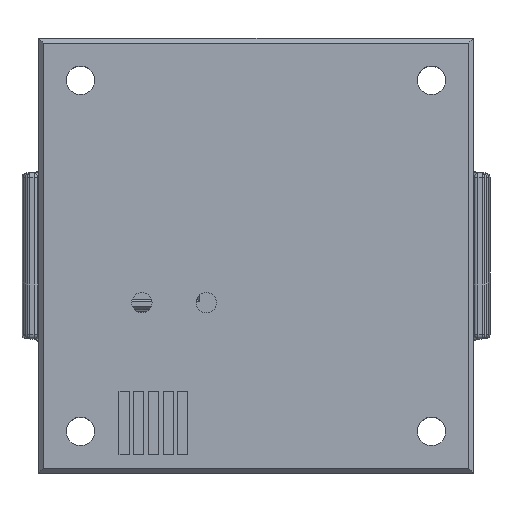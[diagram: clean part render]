
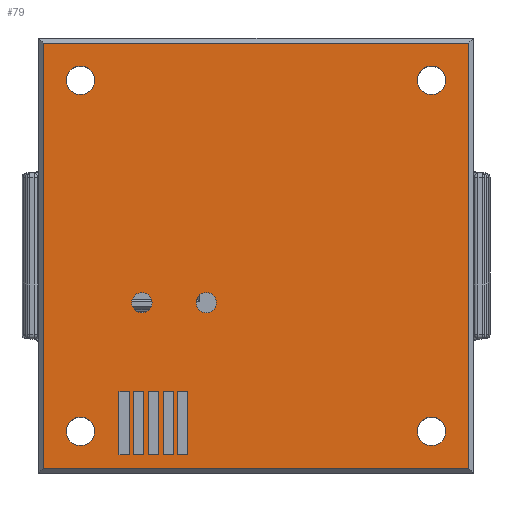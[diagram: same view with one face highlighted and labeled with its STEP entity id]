
A CAD part, top view. The second image highlights one B-rep face of the part: STEP entity #79.
In plain terms, the highlighted planar face has unit normal (0, 0, 1).
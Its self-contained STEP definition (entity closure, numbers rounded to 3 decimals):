
#43 = EDGE_CURVE('',#44,#46,#48,.T.);
#44 = VERTEX_POINT('',#45);
#45 = CARTESIAN_POINT('',(-21.5,-0.32,5.27));
#46 = VERTEX_POINT('',#47);
#47 = CARTESIAN_POINT('',(24.68,-0.32,5.27));
#48 = LINE('',#49,#50);
#49 = CARTESIAN_POINT('',(13.385,-0.32,5.27));
#50 = VECTOR('',#51,1.);
#51 = DIRECTION('',(1.,0.,0.));
#79 = ADVANCED_FACE('',(#80,#105,#116,#150,#184,#195,#229,#263,#297,#308
    ,#319,#330),#341,.T.);
#80 = FACE_BOUND('',#81,.T.);
#81 = EDGE_LOOP('',(#82,#83,#91,#99));
#82 = ORIENTED_EDGE('',*,*,#43,.F.);
#83 = ORIENTED_EDGE('',*,*,#84,.F.);
#84 = EDGE_CURVE('',#85,#44,#87,.T.);
#85 = VERTEX_POINT('',#86);
#86 = CARTESIAN_POINT('',(-21.5,-46.5,5.27));
#87 = LINE('',#88,#89);
#88 = CARTESIAN_POINT('',(-21.5,-11.615,5.27));
#89 = VECTOR('',#90,1.);
#90 = DIRECTION('',(0.,1.,0.));
#91 = ORIENTED_EDGE('',*,*,#92,.F.);
#92 = EDGE_CURVE('',#93,#85,#95,.T.);
#93 = VERTEX_POINT('',#94);
#94 = CARTESIAN_POINT('',(24.68,-46.5,5.27));
#95 = LINE('',#96,#97);
#96 = CARTESIAN_POINT('',(-10.205,-46.5,5.27));
#97 = VECTOR('',#98,1.);
#98 = DIRECTION('',(-1.,0.,0.));
#99 = ORIENTED_EDGE('',*,*,#100,.F.);
#100 = EDGE_CURVE('',#46,#93,#101,.T.);
#101 = LINE('',#102,#103);
#102 = CARTESIAN_POINT('',(24.68,-35.205,5.27));
#103 = VECTOR('',#104,1.);
#104 = DIRECTION('',(0.,-1.,0.));
#105 = FACE_BOUND('',#106,.T.);
#106 = EDGE_LOOP('',(#107));
#107 = ORIENTED_EDGE('',*,*,#108,.T.);
#108 = EDGE_CURVE('',#109,#109,#111,.T.);
#109 = VERTEX_POINT('',#110);
#110 = CARTESIAN_POINT('',(-9.693,-28.49,5.27));
#111 = CIRCLE('',#112,1.1);
#112 = AXIS2_PLACEMENT_3D('',#113,#114,#115);
#113 = CARTESIAN_POINT('',(-10.793,-28.49,5.27));
#114 = DIRECTION('',(0.,0.,-1.));
#115 = DIRECTION('',(-1.,0.,0.));
#116 = FACE_BOUND('',#117,.T.);
#117 = EDGE_LOOP('',(#118,#128,#136,#144));
#118 = ORIENTED_EDGE('',*,*,#119,.T.);
#119 = EDGE_CURVE('',#120,#122,#124,.T.);
#120 = VERTEX_POINT('',#121);
#121 = CARTESIAN_POINT('',(-10.076,-38.161,5.27));
#122 = VERTEX_POINT('',#123);
#123 = CARTESIAN_POINT('',(-8.988,-38.161,5.27));
#124 = LINE('',#125,#126);
#125 = CARTESIAN_POINT('',(-3.699,-38.161,5.27));
#126 = VECTOR('',#127,1.);
#127 = DIRECTION('',(1.,0.,0.));
#128 = ORIENTED_EDGE('',*,*,#129,.T.);
#129 = EDGE_CURVE('',#122,#130,#132,.T.);
#130 = VERTEX_POINT('',#131);
#131 = CARTESIAN_POINT('',(-8.988,-45.,5.27));
#132 = LINE('',#133,#134);
#133 = CARTESIAN_POINT('',(-8.988,-34.205,5.27));
#134 = VECTOR('',#135,1.);
#135 = DIRECTION('',(0.,-1.,0.));
#136 = ORIENTED_EDGE('',*,*,#137,.T.);
#137 = EDGE_CURVE('',#130,#138,#140,.T.);
#138 = VERTEX_POINT('',#139);
#139 = CARTESIAN_POINT('',(-10.076,-45.,5.27));
#140 = LINE('',#141,#142);
#141 = CARTESIAN_POINT('',(-4.243,-45.,5.27));
#142 = VECTOR('',#143,1.);
#143 = DIRECTION('',(-1.,0.,0.));
#144 = ORIENTED_EDGE('',*,*,#145,.T.);
#145 = EDGE_CURVE('',#138,#120,#146,.T.);
#146 = LINE('',#147,#148);
#147 = CARTESIAN_POINT('',(-10.076,-30.785,5.27));
#148 = VECTOR('',#149,1.);
#149 = DIRECTION('',(0.,1.,0.));
#150 = FACE_BOUND('',#151,.T.);
#151 = EDGE_LOOP('',(#152,#162,#170,#178));
#152 = ORIENTED_EDGE('',*,*,#153,.T.);
#153 = EDGE_CURVE('',#154,#156,#158,.T.);
#154 = VERTEX_POINT('',#155);
#155 = CARTESIAN_POINT('',(-6.901,-38.161,5.27));
#156 = VERTEX_POINT('',#157);
#157 = CARTESIAN_POINT('',(-5.813,-38.161,5.27));
#158 = LINE('',#159,#160);
#159 = CARTESIAN_POINT('',(-2.112,-38.161,5.27));
#160 = VECTOR('',#161,1.);
#161 = DIRECTION('',(1.,0.,0.));
#162 = ORIENTED_EDGE('',*,*,#163,.T.);
#163 = EDGE_CURVE('',#156,#164,#166,.T.);
#164 = VERTEX_POINT('',#165);
#165 = CARTESIAN_POINT('',(-5.813,-45.,5.27));
#166 = LINE('',#167,#168);
#167 = CARTESIAN_POINT('',(-5.813,-34.205,5.27));
#168 = VECTOR('',#169,1.);
#169 = DIRECTION('',(0.,-1.,0.));
#170 = ORIENTED_EDGE('',*,*,#171,.T.);
#171 = EDGE_CURVE('',#164,#172,#174,.T.);
#172 = VERTEX_POINT('',#173);
#173 = CARTESIAN_POINT('',(-6.901,-45.,5.27));
#174 = LINE('',#175,#176);
#175 = CARTESIAN_POINT('',(-2.655,-45.,5.27));
#176 = VECTOR('',#177,1.);
#177 = DIRECTION('',(-1.,0.,0.));
#178 = ORIENTED_EDGE('',*,*,#179,.T.);
#179 = EDGE_CURVE('',#172,#154,#180,.T.);
#180 = LINE('',#181,#182);
#181 = CARTESIAN_POINT('',(-6.901,-30.785,5.27));
#182 = VECTOR('',#183,1.);
#183 = DIRECTION('',(0.,1.,0.));
#184 = FACE_BOUND('',#185,.T.);
#185 = EDGE_LOOP('',(#186));
#186 = ORIENTED_EDGE('',*,*,#187,.T.);
#187 = EDGE_CURVE('',#188,#188,#190,.T.);
#188 = VERTEX_POINT('',#189);
#189 = CARTESIAN_POINT('',(-2.708,-28.49,5.27));
#190 = CIRCLE('',#191,1.1);
#191 = AXIS2_PLACEMENT_3D('',#192,#193,#194);
#192 = CARTESIAN_POINT('',(-3.808,-28.49,5.27));
#193 = DIRECTION('',(0.,0.,-1.));
#194 = DIRECTION('',(-1.,0.,0.));
#195 = FACE_BOUND('',#196,.T.);
#196 = EDGE_LOOP('',(#197,#207,#215,#223));
#197 = ORIENTED_EDGE('',*,*,#198,.T.);
#198 = EDGE_CURVE('',#199,#201,#203,.T.);
#199 = VERTEX_POINT('',#200);
#200 = CARTESIAN_POINT('',(-8.488,-38.161,5.27));
#201 = VERTEX_POINT('',#202);
#202 = CARTESIAN_POINT('',(-7.401,-38.161,5.27));
#203 = LINE('',#204,#205);
#204 = CARTESIAN_POINT('',(-2.905,-38.161,5.27));
#205 = VECTOR('',#206,1.);
#206 = DIRECTION('',(1.,0.,0.));
#207 = ORIENTED_EDGE('',*,*,#208,.T.);
#208 = EDGE_CURVE('',#201,#209,#211,.T.);
#209 = VERTEX_POINT('',#210);
#210 = CARTESIAN_POINT('',(-7.401,-45.,5.27));
#211 = LINE('',#212,#213);
#212 = CARTESIAN_POINT('',(-7.401,-34.205,5.27));
#213 = VECTOR('',#214,1.);
#214 = DIRECTION('',(0.,-1.,0.));
#215 = ORIENTED_EDGE('',*,*,#216,.T.);
#216 = EDGE_CURVE('',#209,#217,#219,.T.);
#217 = VERTEX_POINT('',#218);
#218 = CARTESIAN_POINT('',(-8.488,-45.,5.27));
#219 = LINE('',#220,#221);
#220 = CARTESIAN_POINT('',(-3.449,-45.,5.27));
#221 = VECTOR('',#222,1.);
#222 = DIRECTION('',(-1.,0.,0.));
#223 = ORIENTED_EDGE('',*,*,#224,.T.);
#224 = EDGE_CURVE('',#217,#199,#225,.T.);
#225 = LINE('',#226,#227);
#226 = CARTESIAN_POINT('',(-8.488,-30.785,5.27));
#227 = VECTOR('',#228,1.);
#228 = DIRECTION('',(0.,1.,0.));
#229 = FACE_BOUND('',#230,.T.);
#230 = EDGE_LOOP('',(#231,#241,#249,#257));
#231 = ORIENTED_EDGE('',*,*,#232,.T.);
#232 = EDGE_CURVE('',#233,#235,#237,.T.);
#233 = VERTEX_POINT('',#234);
#234 = CARTESIAN_POINT('',(-11.663,-38.161,5.27));
#235 = VERTEX_POINT('',#236);
#236 = CARTESIAN_POINT('',(-10.576,-38.161,5.27));
#237 = LINE('',#238,#239);
#238 = CARTESIAN_POINT('',(-4.493,-38.161,5.27));
#239 = VECTOR('',#240,1.);
#240 = DIRECTION('',(1.,0.,0.));
#241 = ORIENTED_EDGE('',*,*,#242,.T.);
#242 = EDGE_CURVE('',#235,#243,#245,.T.);
#243 = VERTEX_POINT('',#244);
#244 = CARTESIAN_POINT('',(-10.576,-45.,5.27));
#245 = LINE('',#246,#247);
#246 = CARTESIAN_POINT('',(-10.576,-34.205,5.27));
#247 = VECTOR('',#248,1.);
#248 = DIRECTION('',(0.,-1.,0.));
#249 = ORIENTED_EDGE('',*,*,#250,.T.);
#250 = EDGE_CURVE('',#243,#251,#253,.T.);
#251 = VERTEX_POINT('',#252);
#252 = CARTESIAN_POINT('',(-11.663,-45.,5.27));
#253 = LINE('',#254,#255);
#254 = CARTESIAN_POINT('',(-5.037,-45.,5.27));
#255 = VECTOR('',#256,1.);
#256 = DIRECTION('',(-1.,0.,0.));
#257 = ORIENTED_EDGE('',*,*,#258,.T.);
#258 = EDGE_CURVE('',#251,#233,#259,.T.);
#259 = LINE('',#260,#261);
#260 = CARTESIAN_POINT('',(-11.663,-30.785,5.27));
#261 = VECTOR('',#262,1.);
#262 = DIRECTION('',(0.,1.,0.));
#263 = FACE_BOUND('',#264,.T.);
#264 = EDGE_LOOP('',(#265,#275,#283,#291));
#265 = ORIENTED_EDGE('',*,*,#266,.T.);
#266 = EDGE_CURVE('',#267,#269,#271,.T.);
#267 = VERTEX_POINT('',#268);
#268 = CARTESIAN_POINT('',(-13.28,-45.,5.27));
#269 = VERTEX_POINT('',#270);
#270 = CARTESIAN_POINT('',(-13.28,-38.161,5.27));
#271 = LINE('',#272,#273);
#272 = CARTESIAN_POINT('',(-13.28,-30.785,5.27));
#273 = VECTOR('',#274,1.);
#274 = DIRECTION('',(0.,1.,0.));
#275 = ORIENTED_EDGE('',*,*,#276,.T.);
#276 = EDGE_CURVE('',#269,#277,#279,.T.);
#277 = VERTEX_POINT('',#278);
#278 = CARTESIAN_POINT('',(-12.163,-38.161,5.27));
#279 = LINE('',#280,#281);
#280 = CARTESIAN_POINT('',(-5.287,-38.161,5.27));
#281 = VECTOR('',#282,1.);
#282 = DIRECTION('',(1.,0.,0.));
#283 = ORIENTED_EDGE('',*,*,#284,.T.);
#284 = EDGE_CURVE('',#277,#285,#287,.T.);
#285 = VERTEX_POINT('',#286);
#286 = CARTESIAN_POINT('',(-12.163,-45.,5.27));
#287 = LINE('',#288,#289);
#288 = CARTESIAN_POINT('',(-12.163,-34.205,5.27));
#289 = VECTOR('',#290,1.);
#290 = DIRECTION('',(0.,-1.,0.));
#291 = ORIENTED_EDGE('',*,*,#292,.T.);
#292 = EDGE_CURVE('',#285,#267,#293,.T.);
#293 = LINE('',#294,#295);
#294 = CARTESIAN_POINT('',(-5.845,-45.,5.27));
#295 = VECTOR('',#296,1.);
#296 = DIRECTION('',(-1.,0.,0.));
#297 = FACE_BOUND('',#298,.T.);
#298 = EDGE_LOOP('',(#299));
#299 = ORIENTED_EDGE('',*,*,#300,.T.);
#300 = EDGE_CURVE('',#301,#301,#303,.T.);
#301 = VERTEX_POINT('',#302);
#302 = CARTESIAN_POINT('',(22.19,-4.36,5.27));
#303 = CIRCLE('',#304,1.55);
#304 = AXIS2_PLACEMENT_3D('',#305,#306,#307);
#305 = CARTESIAN_POINT('',(20.64,-4.36,5.27));
#306 = DIRECTION('',(0.,0.,-1.));
#307 = DIRECTION('',(-1.,0.,0.));
#308 = FACE_BOUND('',#309,.T.);
#309 = EDGE_LOOP('',(#310));
#310 = ORIENTED_EDGE('',*,*,#311,.T.);
#311 = EDGE_CURVE('',#312,#312,#314,.T.);
#312 = VERTEX_POINT('',#313);
#313 = CARTESIAN_POINT('',(-15.91,-42.46,5.27));
#314 = CIRCLE('',#315,1.55);
#315 = AXIS2_PLACEMENT_3D('',#316,#317,#318);
#316 = CARTESIAN_POINT('',(-17.46,-42.46,5.27));
#317 = DIRECTION('',(0.,0.,-1.));
#318 = DIRECTION('',(-1.,0.,0.));
#319 = FACE_BOUND('',#320,.T.);
#320 = EDGE_LOOP('',(#321));
#321 = ORIENTED_EDGE('',*,*,#322,.T.);
#322 = EDGE_CURVE('',#323,#323,#325,.T.);
#323 = VERTEX_POINT('',#324);
#324 = CARTESIAN_POINT('',(22.19,-42.46,5.27));
#325 = CIRCLE('',#326,1.55);
#326 = AXIS2_PLACEMENT_3D('',#327,#328,#329);
#327 = CARTESIAN_POINT('',(20.64,-42.46,5.27));
#328 = DIRECTION('',(0.,0.,-1.));
#329 = DIRECTION('',(-1.,0.,0.));
#330 = FACE_BOUND('',#331,.T.);
#331 = EDGE_LOOP('',(#332));
#332 = ORIENTED_EDGE('',*,*,#333,.T.);
#333 = EDGE_CURVE('',#334,#334,#336,.T.);
#334 = VERTEX_POINT('',#335);
#335 = CARTESIAN_POINT('',(-15.91,-4.36,5.27));
#336 = CIRCLE('',#337,1.55);
#337 = AXIS2_PLACEMENT_3D('',#338,#339,#340);
#338 = CARTESIAN_POINT('',(-17.46,-4.36,5.27));
#339 = DIRECTION('',(0.,0.,-1.));
#340 = DIRECTION('',(-1.,0.,0.));
#341 = PLANE('',#342);
#342 = AXIS2_PLACEMENT_3D('',#343,#344,#345);
#343 = CARTESIAN_POINT('',(1.59,-23.41,5.27));
#344 = DIRECTION('',(0.,0.,1.));
#345 = DIRECTION('',(1.,0.,0.));
